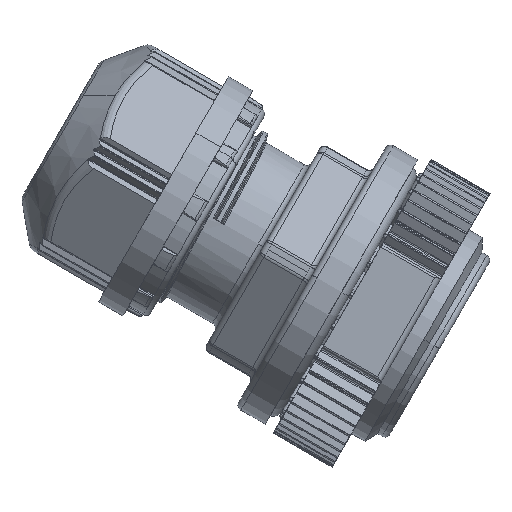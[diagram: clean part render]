
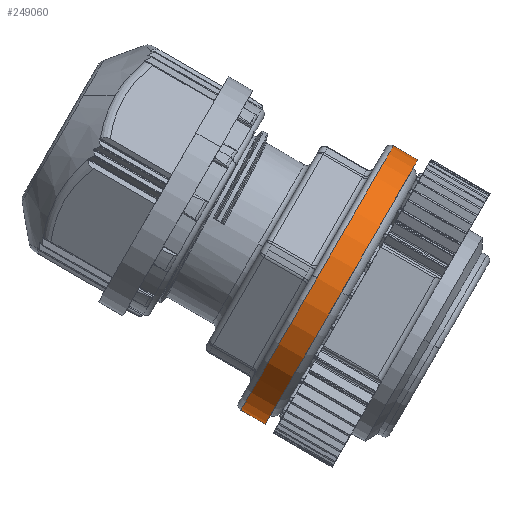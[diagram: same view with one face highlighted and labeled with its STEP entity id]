
A CAD part, left-side view. The second image highlights one B-rep face of the part: STEP entity #249060.
In plain terms, the highlighted cylindrical face has radius 13.5 mm (diameter 27 mm), a partial arc.
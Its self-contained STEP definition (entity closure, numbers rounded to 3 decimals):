
#159330=CARTESIAN_POINT('',(71.901,151.189,
0.));
#159340=DIRECTION('',(1.,0.,0.));
#159350=DIRECTION('',(0.,-1.,0.));
#159360=AXIS2_PLACEMENT_3D('',#159330,#159340,#159350);
#159370=CIRCLE('',#159360,13.5);
#159380=CARTESIAN_POINT('',(71.901,164.689,
0.));
#159390=VERTEX_POINT('',#159380);
#159400=CARTESIAN_POINT('',(71.901,151.189,
13.5));
#159410=VERTEX_POINT('',#159400);
#159420=EDGE_CURVE('',#159390,#159410,#159370,.T.);
#159660=CARTESIAN_POINT('',(70.651,151.189,
0.));
#159670=DIRECTION('',(-1.,0.,0.));
#159680=DIRECTION('',(0.,0.,1.));
#159690=AXIS2_PLACEMENT_3D('',#159660,#159670,#159680);
#159700=CYLINDRICAL_SURFACE('',#159690,13.5);
#159710=CARTESIAN_POINT('',(70.651,151.189,
13.5));
#159720=DIRECTION('',(-1.,0.,0.));
#159730=VECTOR('',#159720,1.);
#159740=LINE('',#159710,#159730);
#159750=CARTESIAN_POINT('',(69.401,151.189,
13.5));
#159760=VERTEX_POINT('',#159750);
#159770=EDGE_CURVE('',#159410,#159760,#159740,.T.);
#159800=CARTESIAN_POINT('',(71.901,151.189,
-13.5));
#159810=VERTEX_POINT('',#159800);
#159840=CARTESIAN_POINT('',(70.651,151.189,
-13.5));
#159850=DIRECTION('',(-1.,0.,0.));
#159860=VECTOR('',#159850,1.);
#159870=LINE('',#159840,#159860);
#159880=CARTESIAN_POINT('',(69.401,151.189,
-13.5));
#159890=VERTEX_POINT('',#159880);
#159900=EDGE_CURVE('',#159810,#159890,#159870,.T.);
#159920=CARTESIAN_POINT('',(69.401,151.189,
0.));
#159930=DIRECTION('',(1.,0.,0.));
#159940=DIRECTION('',(0.,-1.,0.));
#159950=AXIS2_PLACEMENT_3D('',#159920,#159930,#159940);
#159960=CIRCLE('',#159950,13.5);
#160270=EDGE_CURVE('',#159890,#159760,#159960,.T.);
#248980=ORIENTED_EDGE('',*,*,#160270,.T.);
#248990=ORIENTED_EDGE('',*,*,#159900,.T.);
#249000=EDGE_CURVE('',#159810,#159390,#159370,.T.);
#249010=ORIENTED_EDGE('',*,*,#249000,.F.);
#249020=ORIENTED_EDGE('',*,*,#159420,.F.);
#249030=ORIENTED_EDGE('',*,*,#159770,.F.);
#249040=EDGE_LOOP('',(#249030,#249020,#249010,#248990,#248980));
#249050=FACE_OUTER_BOUND('',#249040,.T.);
#249060=ADVANCED_FACE('',(#249050),#159700,.T.);
